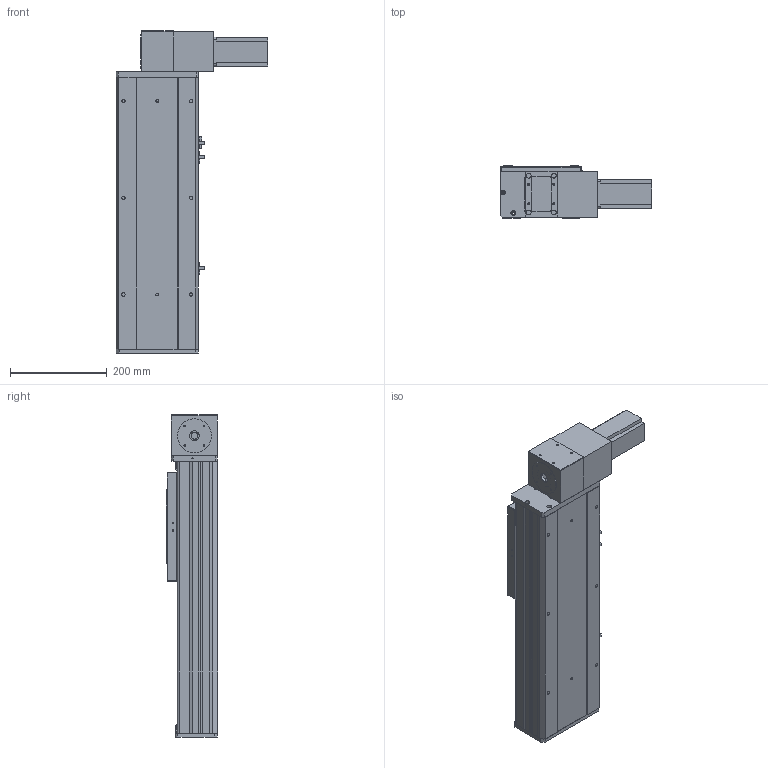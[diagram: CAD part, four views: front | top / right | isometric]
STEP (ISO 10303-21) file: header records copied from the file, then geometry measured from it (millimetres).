
FILE_DESCRIPTION (( 'STEP AP203' ), '1' );
FILE_NAME ('Y170CB-D105-S250-BD-P400W.STEP', '2020-02-20T08:05:48', ( '微软用户' ), ( '微软中国' ), 'SwSTEP 2.0', 'SolidWorks 2017', '' );
FILE_SCHEMA (( 'CONFIG_CONTROL_DESIGN' ));
Length unit declared in the file: millimetre
Products named in the file (16): 70CB-詩湍--; san松下电机400不带刹车----; Y100-135俋离換覜ん--; 70CB-掛极-; Y170CB-陔俋离換覜結え---; --70CB --喘謫眊楊擘啣-; Y1埴倛裔; 70CB-耜裔啣-; 0B薊粣ん眊-400W--; 70B喘謫眊----; Y170CB-D105-S250-BD-P400W; 70C--詩湍揤踡え-; 70CB--耜裔; 70C-雄赽釱-奻-; 0C--雄赽釱俋欶-170; B-源倛裔啣
Assembly tree (19 placements, depth 2):
  Y170CB-D105-S250-BD-P400W
    B-源倛裔啣
    san松下电机400不带刹车----
    70CB-掛极-
    --70CB --喘謫眊楊擘啣-
    70CB-耜裔啣-  x2
    70C--詩湍揤踡え-  x2
    70CB--耜裔
    70C-雄赽釱-奻-
    0C--雄赽釱俋欶-170
    70CB-詩湍--
    Y100-135俋离換覜ん--  x3
    Y170CB-陔俋离換覜結え---
    Y1埴倛裔
    70B喘謫眊----
    0B薊粣ん眊-400W--
Bounding box: 313.5 x 107 x 666 mm (x, y, z)
Volume: 3874207.4 mm3; surface area: 1240509.5 mm2
Topology: 19 solids, 19 shells, 888 faces, 2330 edges, 1544 vertices
Faces by surface type: cylinder 442, plane 422, cone 24
Entity records: 27551 total; most frequent: CARTESIAN_POINT 5086, DIRECTION 4479, ORIENTED_EDGE 4142, EDGE_CURVE 2071, AXIS2_PLACEMENT_3D 1641, VERTEX_POINT 1374, VECTOR 1197, LINE 1197
